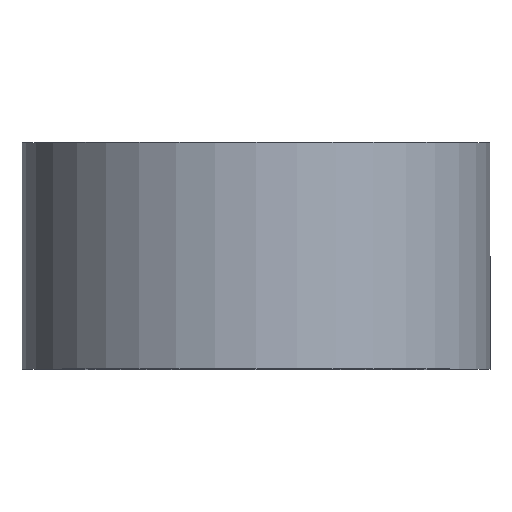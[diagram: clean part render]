
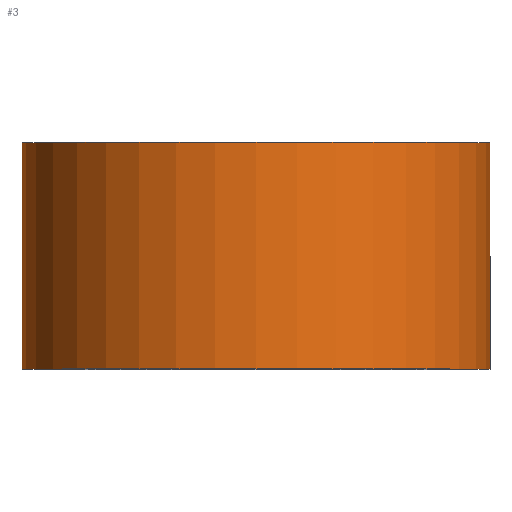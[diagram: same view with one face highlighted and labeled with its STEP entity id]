
A CAD part, top view. The second image highlights one B-rep face of the part: STEP entity #3.
In plain terms, the highlighted cylindrical face has radius 31 mm (diameter 62 mm), a partial arc.
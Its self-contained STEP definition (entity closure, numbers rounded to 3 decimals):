
#1 = CYLINDRICAL_SURFACE ( 'NONE', #256, 31. ) ;
#3 = ADVANCED_FACE ( 'NONE', ( #155 ), #1, .T. ) ;
#7 = ORIENTED_EDGE ( 'NONE', *, *, #97, .F. ) ;
#32 = CARTESIAN_POINT ( 'NONE',  ( -31., 0., 0. ) ) ;
#34 = LINE ( 'NONE', #32, #91 ) ;
#52 = AXIS2_PLACEMENT_3D ( 'NONE', #227, #67, #177 ) ;
#59 = CARTESIAN_POINT ( 'NONE',  ( 31., 30., 0. ) ) ;
#60 = CARTESIAN_POINT ( 'NONE',  ( 0., 0., 0. ) ) ;
#67 = DIRECTION ( 'NONE',  ( 0., 1., 0. ) ) ;
#83 = ORIENTED_EDGE ( 'NONE', *, *, #262, .T. ) ;
#86 = VECTOR ( 'NONE', #205, 1000. ) ;
#91 = VECTOR ( 'NONE', #148, 1000. ) ;
#97 = EDGE_CURVE ( 'NONE', #189, #129, #34, .T. ) ;
#104 = CIRCLE ( 'NONE', #52, 31. ) ;
#108 = AXIS2_PLACEMENT_3D ( 'NONE', #271, #138, #203 ) ;
#129 = VERTEX_POINT ( 'NONE', #197 ) ;
#138 = DIRECTION ( 'NONE',  ( 0., 1., 0. ) ) ;
#148 = DIRECTION ( 'NONE',  ( 0., 1., 0. ) ) ;
#155 = FACE_OUTER_BOUND ( 'NONE', #182, .T. ) ;
#177 = DIRECTION ( 'NONE',  ( -1., 0., 0. ) ) ;
#181 = CIRCLE ( 'NONE', #108, 31. ) ;
#182 = EDGE_LOOP ( 'NONE', ( #279, #83, #215, #7 ) ) ;
#187 = VERTEX_POINT ( 'NONE', #59 ) ;
#189 = VERTEX_POINT ( 'NONE', #269 ) ;
#191 = EDGE_CURVE ( 'NONE', #189, #193, #104, .T. ) ;
#193 = VERTEX_POINT ( 'NONE', #207 ) ;
#197 = CARTESIAN_POINT ( 'NONE',  ( -31., 30., 0. ) ) ;
#200 = DIRECTION ( 'NONE',  ( -1., 0., 0. ) ) ;
#203 = DIRECTION ( 'NONE',  ( -1., 0., 0. ) ) ;
#205 = DIRECTION ( 'NONE',  ( 0., 1., 0. ) ) ;
#207 = CARTESIAN_POINT ( 'NONE',  ( 31., 0., 0. ) ) ;
#215 = ORIENTED_EDGE ( 'NONE', *, *, #283, .F. ) ;
#218 = DIRECTION ( 'NONE',  ( 0., 1., 0. ) ) ;
#227 = CARTESIAN_POINT ( 'NONE',  ( 0., 0., 0. ) ) ;
#256 = AXIS2_PLACEMENT_3D ( 'NONE', #60, #218, #200 ) ;
#262 = EDGE_CURVE ( 'NONE', #193, #187, #282, .T. ) ;
#269 = CARTESIAN_POINT ( 'NONE',  ( -31., 0., 0. ) ) ;
#271 = CARTESIAN_POINT ( 'NONE',  ( 0., 30., 0. ) ) ;
#279 = ORIENTED_EDGE ( 'NONE', *, *, #191, .T. ) ;
#282 = LINE ( 'NONE', #291, #86 ) ;
#283 = EDGE_CURVE ( 'NONE', #129, #187, #181, .T. ) ;
#291 = CARTESIAN_POINT ( 'NONE',  ( 31., 0., 0. ) ) ;
